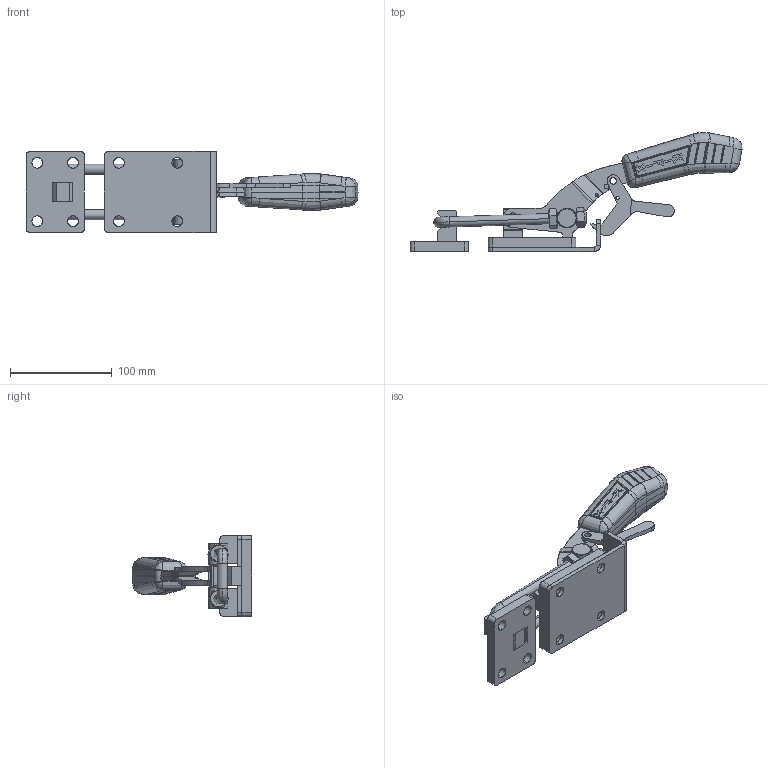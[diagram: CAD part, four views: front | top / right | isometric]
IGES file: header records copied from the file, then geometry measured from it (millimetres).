
Start section: SolidWorks IGES file using analytic representation for surfaces
Global section: file name: C:\Projetos\Grampos\KF-375\KF-375 D TR\KF-375 D TR.IGS; native system: SolidWorks 2013; preprocessor: SolidWorks 2013; author: Ricardo; date: 140822.102306; units: millimetre
Bounding box: 325.49 x 116.77 x 79.5 mm (x, y, z)
Surface area: 128669 mm2 (no closed solid volume)
Topology: 0 solids, 0 shells, 754 faces, 9136 edges, 9115 vertices
Faces by surface type: bspline 422, revolution 332
